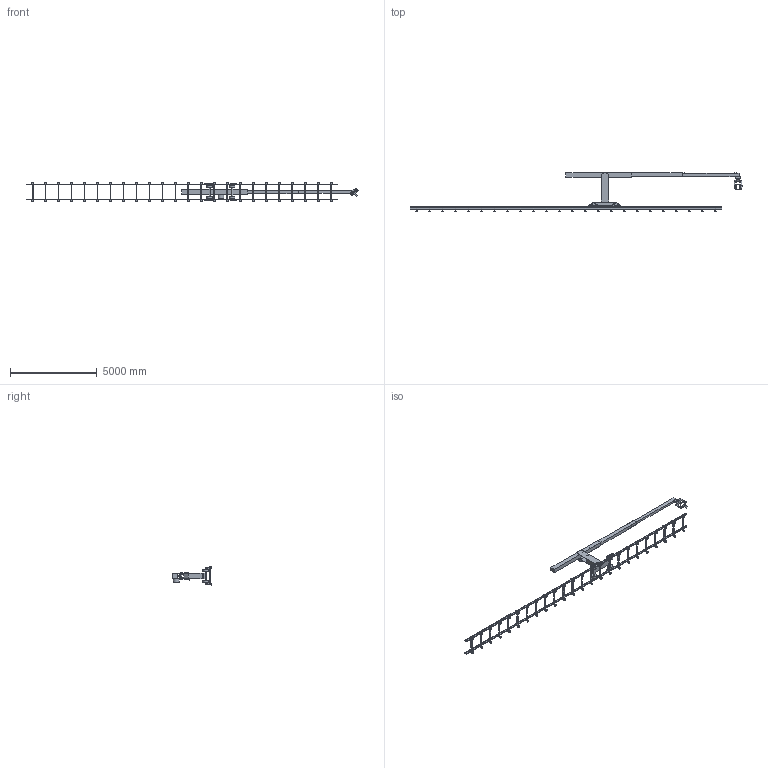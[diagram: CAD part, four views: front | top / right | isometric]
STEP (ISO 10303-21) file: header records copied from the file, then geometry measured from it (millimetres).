
FILE_DESCRIPTION(/* description */ ('03/09-50-00'),/* implementation_level */ '2;1');
FILE_NAME(/* name */ 'W:\TechnoCrane\25 Technodolly 25\Model pro Motion builder\Technodolly 25.stp',/* time_stamp */ '2021-05-27T09:10:21+02:00',/* author */ ('ivana'),/* organization */ (''),/* preprocessor_version */ 'ST-DEVELOPER v18.1',/* originating_system */ 'Autodesk Inventor 2021',/* authorisation */ '');
FILE_SCHEMA (('AUTOMOTIVE_DESIGN { 1 0 10303 214 3 1 1 }'));
Length unit declared in the file: millimetre
Products named in the file (22): Technodolly 25 Motion builder; Base_wheels_track wheels; Base; Wheel; Track wheel; Wheel shaft; Track wheel side; Electrocolumn; 1st beam; 2nd beam; 3rd beam; Autohorizon; Head; Head PAN; Head ROLL; Head tube; Head TILT; Tracks; Rail; Profile; Sleeper; Jack
Assembly tree (119 placements, depth 3):
  Technodolly 25 Motion builder
    Base_wheels_track wheels
      Base
      Wheel  x4
      Track wheel  x16
      Wheel shaft  x2
      Track wheel side  x4
    Electrocolumn
    1st beam
    2nd beam
    3rd beam
    Autohorizon
    Head
      Head PAN
      Head ROLL
      Head TILT  x2
      Head tube  x4
    Tracks
      Rail  x2
      Profile  x2
      Sleeper  x24
      Jack  x48
Bounding box: 19173.37 x 2246 x 1109.96 mm (x, y, z)
Volume: 1041902418 mm3; surface area: 38129919.1 mm2
Topology: 117 solids, 117 shells, 700 faces, 1203 edges, 790 vertices
Faces by surface type: plane 448, cylinder 204, cone 48
Full cylindrical faces by diameter (mm): 20 x4, 30 x48, 40 x6, 80 x2, 110 x16, 120 x48, 295 x1, 324 x1, 330 x4, 334 x1
Entity records: 6320 total; most frequent: DIRECTION 1089, CARTESIAN_POINT 935, ORIENTED_EDGE 750, AXIS2_PLACEMENT_3D 392, EDGE_CURVE 375, LINE 305, VECTOR 305, VERTEX_POINT 238
